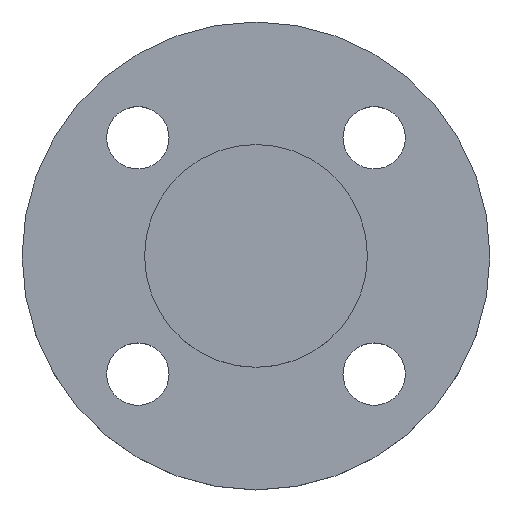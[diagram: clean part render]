
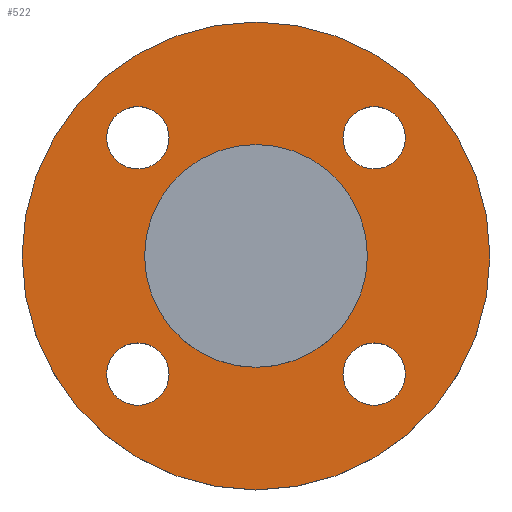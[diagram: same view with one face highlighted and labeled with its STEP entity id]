
A CAD part, top view. The second image highlights one B-rep face of the part: STEP entity #522.
In plain terms, the highlighted planar face has unit normal (0, 0, 1).
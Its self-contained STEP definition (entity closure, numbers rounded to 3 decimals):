
#11 = CIRCLE ( 'NONE', #671, 7. ) ;
#20 = AXIS2_PLACEMENT_3D ( 'NONE', #650, #651, #655 ) ;
#46 = AXIS2_PLACEMENT_3D ( 'NONE', #496, #502, #507 ) ;
#47 = CIRCLE ( 'NONE', #654, 7. ) ;
#81 = EDGE_CURVE ( 'NONE', #494, #441, #246, .T. ) ;
#116 = AXIS2_PLACEMENT_3D ( 'NONE', #717, #718, #719 ) ;
#117 = CIRCLE ( 'NONE', #704, 52.5 ) ;
#122 = DIRECTION ( 'NONE',  ( -1., 0., 0. ) ) ;
#123 = DIRECTION ( 'NONE',  ( 0., 0., -1. ) ) ;
#124 = CARTESIAN_POINT ( 'NONE',  ( 0., 0., -4.5 ) ) ;
#140 = FACE_BOUND ( 'NONE', #435, .T. ) ;
#144 = FACE_BOUND ( 'NONE', #253, .T. ) ;
#147 = FACE_OUTER_BOUND ( 'NONE', #446, .T. ) ;
#151 = DIRECTION ( 'NONE',  ( 0., 0., -1. ) ) ;
#153 = EDGE_CURVE ( 'NONE', #273, #503, #558, .T. ) ;
#155 = CARTESIAN_POINT ( 'NONE',  ( 25., 0., -4.5 ) ) ;
#158 = FACE_BOUND ( 'NONE', #272, .T. ) ;
#160 = CIRCLE ( 'NONE', #231, 7. ) ;
#161 = FACE_BOUND ( 'NONE', #445, .T. ) ;
#167 = DIRECTION ( 'NONE',  ( 0., 0., 1. ) ) ;
#176 = CIRCLE ( 'NONE', #606, 7. ) ;
#187 = CARTESIAN_POINT ( 'NONE',  ( 33.517, 26.517, -4.5 ) ) ;
#190 = PLANE ( 'NONE',  #449 ) ;
#191 = DIRECTION ( 'NONE',  ( 1., 0., 0. ) ) ;
#192 = CARTESIAN_POINT ( 'NONE',  ( -19.517, 26.517, -4.5 ) ) ;
#193 = DIRECTION ( 'NONE',  ( 1., 0., 0. ) ) ;
#209 = EDGE_CURVE ( 'NONE', #441, #494, #607, .T. ) ;
#210 = CARTESIAN_POINT ( 'NONE',  ( 25., 0., -4.5 ) ) ;
#211 = CARTESIAN_POINT ( 'NONE',  ( 52.5, 0., -4.5 ) ) ;
#217 = EDGE_CURVE ( 'NONE', #499, #463, #624, .T. ) ;
#223 = EDGE_CURVE ( 'NONE', #511, #455, #47, .T. ) ;
#224 = CIRCLE ( 'NONE', #313, 7. ) ;
#229 = CARTESIAN_POINT ( 'NONE',  ( -26.517, 26.517, -4.5 ) ) ;
#231 = AXIS2_PLACEMENT_3D ( 'NONE', #229, #238, #260 ) ;
#238 = DIRECTION ( 'NONE',  ( 0., 0., -1. ) ) ;
#246 = CIRCLE ( 'NONE', #731, 25. ) ;
#253 = EDGE_LOOP ( 'NONE', ( #339, #342 ) ) ;
#260 = DIRECTION ( 'NONE',  ( 1., 0., 0. ) ) ;
#272 = EDGE_LOOP ( 'NONE', ( #335, #337 ) ) ;
#273 = VERTEX_POINT ( 'NONE', #187 ) ;
#307 = EDGE_CURVE ( 'NONE', #455, #511, #160, .T. ) ;
#313 = AXIS2_PLACEMENT_3D ( 'NONE', #527, #528, #529 ) ;
#332 = EDGE_CURVE ( 'NONE', #512, #495, #117, .T. ) ;
#333 = ORIENTED_EDGE ( 'NONE', *, *, #217, .T. ) ;
#334 = ORIENTED_EDGE ( 'NONE', *, *, #415, .T. ) ;
#335 = ORIENTED_EDGE ( 'NONE', *, *, #465, .T. ) ;
#337 = ORIENTED_EDGE ( 'NONE', *, *, #353, .T. ) ;
#339 = ORIENTED_EDGE ( 'NONE', *, *, #223, .T. ) ;
#342 = ORIENTED_EDGE ( 'NONE', *, *, #307, .T. ) ;
#343 = ORIENTED_EDGE ( 'NONE', *, *, #153, .T. ) ;
#344 = ORIENTED_EDGE ( 'NONE', *, *, #363, .T. ) ;
#346 = ORIENTED_EDGE ( 'NONE', *, *, #81, .T. ) ;
#348 = ORIENTED_EDGE ( 'NONE', *, *, #209, .T. ) ;
#349 = ORIENTED_EDGE ( 'NONE', *, *, #332, .F. ) ;
#353 = EDGE_CURVE ( 'NONE', #473, #443, #605, .T. ) ;
#363 = EDGE_CURVE ( 'NONE', #503, #273, #224, .T. ) ;
#413 = EDGE_LOOP ( 'NONE', ( #333, #334 ) ) ;
#415 = EDGE_CURVE ( 'NONE', #463, #499, #176, .T. ) ;
#423 = DIRECTION ( 'NONE',  ( 0., 0., -1. ) ) ;
#435 = EDGE_LOOP ( 'NONE', ( #346, #348 ) ) ;
#441 = VERTEX_POINT ( 'NONE', #210 ) ;
#443 = VERTEX_POINT ( 'NONE', #601 ) ;
#445 = EDGE_LOOP ( 'NONE', ( #343, #344 ) ) ;
#446 = EDGE_LOOP ( 'NONE', ( #349, #476 ) ) ;
#449 = AXIS2_PLACEMENT_3D ( 'NONE', #155, #167, #193 ) ;
#455 = VERTEX_POINT ( 'NONE', #617 ) ;
#463 = VERTEX_POINT ( 'NONE', #637 ) ;
#465 = EDGE_CURVE ( 'NONE', #443, #473, #11, .T. ) ;
#468 = CARTESIAN_POINT ( 'NONE',  ( 0., 0., -4.5 ) ) ;
#470 = DIRECTION ( 'NONE',  ( 0., 0., -1. ) ) ;
#471 = DIRECTION ( 'NONE',  ( -1., 0., 0. ) ) ;
#473 = VERTEX_POINT ( 'NONE', #630 ) ;
#476 = ORIENTED_EDGE ( 'NONE', *, *, #597, .F. ) ;
#483 = CIRCLE ( 'NONE', #690, 52.5 ) ;
#494 = VERTEX_POINT ( 'NONE', #648 ) ;
#495 = VERTEX_POINT ( 'NONE', #639 ) ;
#496 = CARTESIAN_POINT ( 'NONE',  ( -26.517, -26.517, -4.5 ) ) ;
#499 = VERTEX_POINT ( 'NONE', #649 ) ;
#502 = DIRECTION ( 'NONE',  ( 0., 0., -1. ) ) ;
#503 = VERTEX_POINT ( 'NONE', #656 ) ;
#506 = FACE_BOUND ( 'NONE', #413, .T. ) ;
#507 = DIRECTION ( 'NONE',  ( 1., 0., 0. ) ) ;
#511 = VERTEX_POINT ( 'NONE', #192 ) ;
#512 = VERTEX_POINT ( 'NONE', #211 ) ;
#522 = ADVANCED_FACE ( 'NONE', ( #506, #158, #144, #161, #140, #147 ), #190, .T. ) ;
#527 = CARTESIAN_POINT ( 'NONE',  ( 26.517, 26.517, -4.5 ) ) ;
#528 = DIRECTION ( 'NONE',  ( 0., 0., -1. ) ) ;
#529 = DIRECTION ( 'NONE',  ( 1., 0., 0. ) ) ;
#551 = CARTESIAN_POINT ( 'NONE',  ( 26.517, -26.517, -4.5 ) ) ;
#554 = DIRECTION ( 'NONE',  ( 0., 0., -1. ) ) ;
#555 = DIRECTION ( 'NONE',  ( 1., 0., 0. ) ) ;
#558 = CIRCLE ( 'NONE', #20, 7. ) ;
#597 = EDGE_CURVE ( 'NONE', #495, #512, #483, .T. ) ;
#601 = CARTESIAN_POINT ( 'NONE',  ( -19.517, -26.517, -4.5 ) ) ;
#605 = CIRCLE ( 'NONE', #46, 7. ) ;
#606 = AXIS2_PLACEMENT_3D ( 'NONE', #551, #554, #555 ) ;
#607 = CIRCLE ( 'NONE', #735, 25. ) ;
#617 = CARTESIAN_POINT ( 'NONE',  ( -33.517, 26.517, -4.5 ) ) ;
#618 = CARTESIAN_POINT ( 'NONE',  ( 0., 0., -4.5 ) ) ;
#619 = DIRECTION ( 'NONE',  ( 0., 0., -1. ) ) ;
#621 = DIRECTION ( 'NONE',  ( -1., 0., 0. ) ) ;
#624 = CIRCLE ( 'NONE', #116, 7. ) ;
#630 = CARTESIAN_POINT ( 'NONE',  ( -33.517, -26.517, -4.5 ) ) ;
#635 = CARTESIAN_POINT ( 'NONE',  ( -26.517, -26.517, -4.5 ) ) ;
#637 = CARTESIAN_POINT ( 'NONE',  ( 19.517, -26.517, -4.5 ) ) ;
#639 = CARTESIAN_POINT ( 'NONE',  ( -52.5, 0., -4.5 ) ) ;
#648 = CARTESIAN_POINT ( 'NONE',  ( -25., 0., -4.5 ) ) ;
#649 = CARTESIAN_POINT ( 'NONE',  ( 33.517, -26.517, -4.5 ) ) ;
#650 = CARTESIAN_POINT ( 'NONE',  ( 26.517, 26.517, -4.5 ) ) ;
#651 = DIRECTION ( 'NONE',  ( 0., 0., -1. ) ) ;
#654 = AXIS2_PLACEMENT_3D ( 'NONE', #721, #722, #723 ) ;
#655 = DIRECTION ( 'NONE',  ( 1., 0., 0. ) ) ;
#656 = CARTESIAN_POINT ( 'NONE',  ( 19.517, 26.517, -4.5 ) ) ;
#670 = DIRECTION ( 'NONE',  ( -1., 0., 0. ) ) ;
#671 = AXIS2_PLACEMENT_3D ( 'NONE', #635, #151, #191 ) ;
#690 = AXIS2_PLACEMENT_3D ( 'NONE', #124, #123, #122 ) ;
#704 = AXIS2_PLACEMENT_3D ( 'NONE', #468, #470, #471 ) ;
#711 = CARTESIAN_POINT ( 'NONE',  ( 0., 0., -4.5 ) ) ;
#717 = CARTESIAN_POINT ( 'NONE',  ( 26.517, -26.517, -4.5 ) ) ;
#718 = DIRECTION ( 'NONE',  ( 0., 0., -1. ) ) ;
#719 = DIRECTION ( 'NONE',  ( 1., 0., 0. ) ) ;
#721 = CARTESIAN_POINT ( 'NONE',  ( -26.517, 26.517, -4.5 ) ) ;
#722 = DIRECTION ( 'NONE',  ( 0., 0., -1. ) ) ;
#723 = DIRECTION ( 'NONE',  ( 1., 0., 0. ) ) ;
#731 = AXIS2_PLACEMENT_3D ( 'NONE', #618, #619, #621 ) ;
#735 = AXIS2_PLACEMENT_3D ( 'NONE', #711, #423, #670 ) ;
